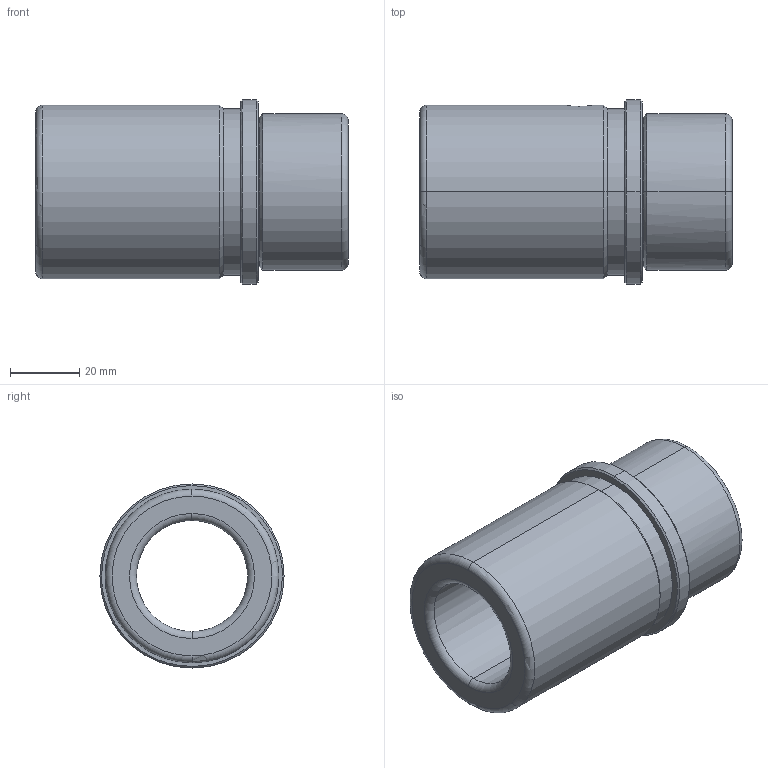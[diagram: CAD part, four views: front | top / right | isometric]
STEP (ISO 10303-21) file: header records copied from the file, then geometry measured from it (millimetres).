
FILE_DESCRIPTION(('CATIA V5 STEP Exchange'),'2;1');
FILE_NAME('C:\Users\Utente\Desktop\IO LAVORO\3D X SITO CF\X SITO\CF 655\CF 655 32 x 90.stp','2020-12-26T14:10:20+00:00',('none'),('none'),'CATIA Version 5 Release 20 GA (IN-10)','CATIA V5 STEP AP203','none');
FILE_SCHEMA(('CONFIG_CONTROL_DESIGN'));
Length unit declared in the file: millimetre
Products named in the file (1): CF 655 32 x 90
Bounding box: 90 x 53 x 53 mm (x, y, z)
Volume: 93632.8 mm3; surface area: 25798.1 mm2
Topology: 1 solids, 1 shells, 37 faces, 126 edges, 94 vertices
Faces by surface type: cylinder 14, cone 10, torus 8, plane 5
Entity records: 1648 total; most frequent: CARTESIAN_POINT 520, ORIENTED_EDGE 252, DIRECTION 178, EDGE_CURVE 126, AXIS2_PLACEMENT_3D 118, VERTEX_POINT 94, CIRCLE 80, EDGE_LOOP 44
